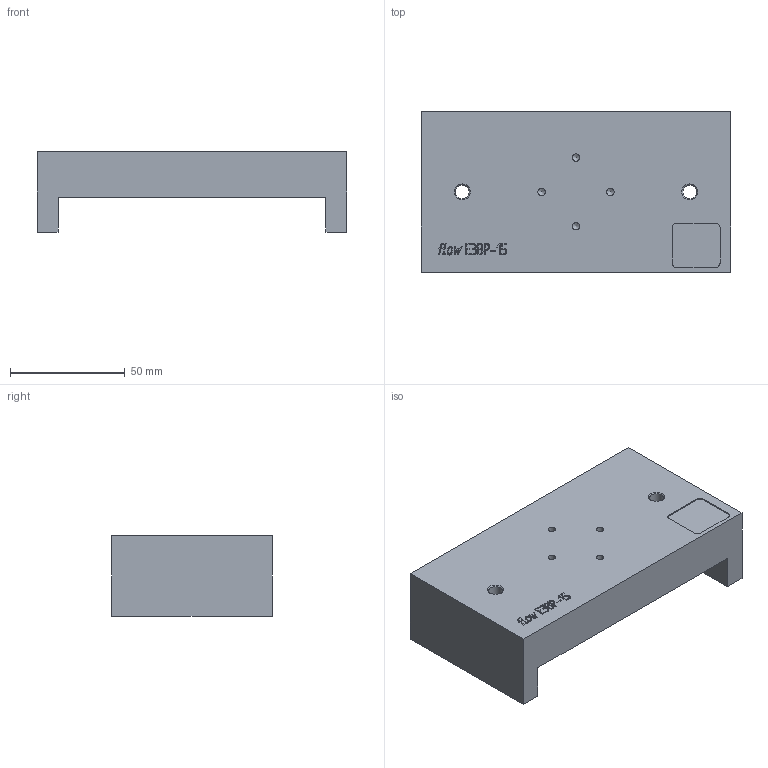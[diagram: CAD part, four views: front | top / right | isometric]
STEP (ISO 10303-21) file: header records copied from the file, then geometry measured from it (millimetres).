
FILE_DESCRIPTION(/* description */ ('Unknown','CAx-IF Rec.Pracs.---Representation and Presentation of Product Manufacturing Information (PMI)---4.0---2014-10-13','CAx-IF Rec.Pracs.---3D Tessellated Geometry---0.4---2014-09-14','2;1'),/* implementation_level */ '2;1');
FILE_NAME(/* name */ 'flowE3BP-15U-TIM',/* time_stamp */ '2026-01-13T17:10:10+01:00',/* author */ ('Unknown'),/* organization */ ('Unknown'),/* preprocessor_version */ 'ST-DEVELOPER v20',/* originating_system */ 'Solid Edge',/* authorisation */ 'Unknown');
FILE_SCHEMA (('AP242_MANAGED_MODEL_BASED_3D_ENGINEERING_MIM_LF { 1 0 10303 442 1 1 4 }'));
Length unit declared in the file: millimetre
Products named in the file (1): flowE3BP-15U-TIM
Bounding box: 135 x 70 x 35 mm (x, y, z)
Volume: 202188.6 mm3; surface area: 33461.9 mm2
Topology: 1 solids, 1 shells, 1175 faces, 1934 edges, 1286 vertices
Faces by surface type: plane 611, cylinder 530, bspline 26, cone 8
Full cylindrical faces by diameter (mm): 0.6 x510, 3.242 x8, 6 x2
Entity records: 34119 total; most frequent: CARTESIAN_POINT 5263, DIRECTION 4574, ORIENTED_EDGE 2784, FACE_BOUND 2238, EDGE_LOOP 2234, AXIS2_PLACEMENT_3D 2211, EDGE_CURVE 1392, VERTEX_POINT 1278
